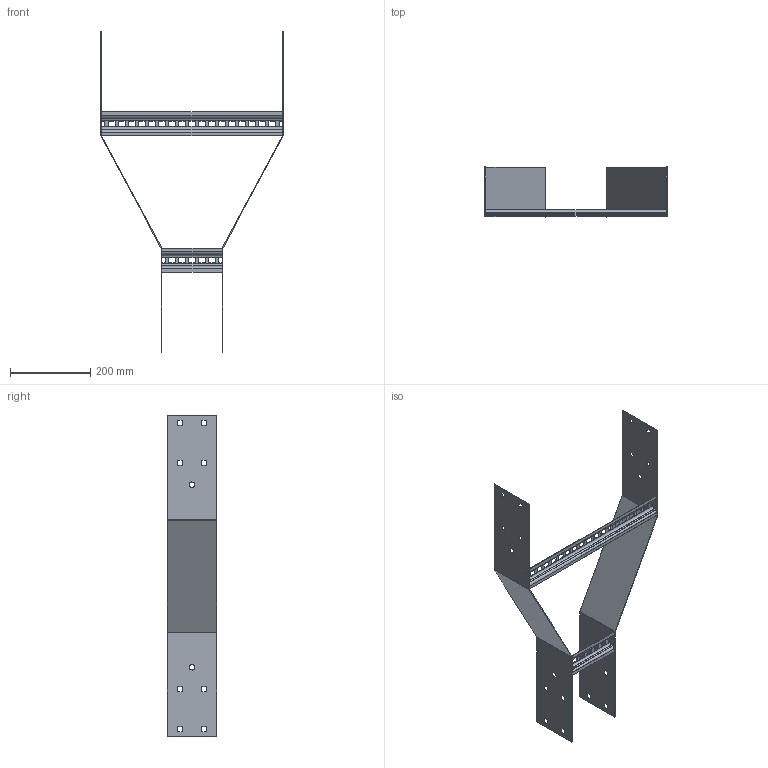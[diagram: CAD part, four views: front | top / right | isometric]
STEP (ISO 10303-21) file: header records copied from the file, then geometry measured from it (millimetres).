
FILE_DESCRIPTION (( 'STEP AP203' ), '1' );
FILE_NAME ('N3 SR 450150.STEP', '2024-08-27T20:28:32', ( '' ), ( '' ), 'SwSTEP 2.0', 'SolidWorks 2023', '' );
FILE_SCHEMA (( 'CONFIG_CONTROL_DESIGN' ));
Length unit declared in the file: millimetre
Products named in the file (4): Ladder Rung_Ladder Rung -  450mm; Ladder Rung_Ladder Rung -  150mm; N3 SR 450150; N3 Reducer side plate_SR150x450
Assembly tree (4 placements, depth 2):
  N3 SR 450150
    N3 Reducer side plate_SR150x450  x2
    Ladder Rung_Ladder Rung -  150mm
    Ladder Rung_Ladder Rung -  450mm
Bounding box: 454 x 124 x 800 mm (x, y, z)
Volume: 473653.3 mm3; surface area: 503781.1 mm2
Topology: 4 solids, 4 shells, 296 faces, 768 edges, 480 vertices
Faces by surface type: plane 264, cylinder 32
Entity records: 7622 total; most frequent: CARTESIAN_POINT 1245, ORIENTED_EDGE 1232, DIRECTION 1154, EDGE_CURVE 616, VECTOR 568, LINE 568, VERTEX_POINT 384, EDGE_LOOP 302
